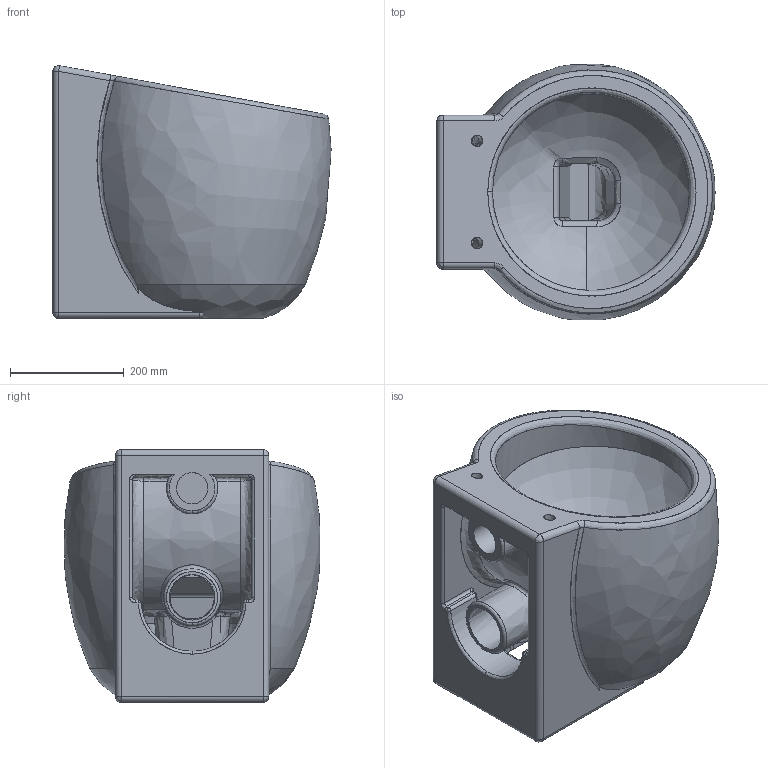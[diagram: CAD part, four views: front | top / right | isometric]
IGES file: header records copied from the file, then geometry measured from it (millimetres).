
Start section: C
Global section: file name: Planet-A-P (8401).igs; native system:  By UGS Corp.; preprocessor: XPlus GENERIC/IGES 3.0; author: Author; organization: Title; date: 20120326.121205; units: millimetre
Bounding box: 489.69 x 450.12 x 444.99 mm (x, y, z)
Surface area: 1482346.9 mm2 (no closed solid volume)
Topology: 0 solids, 0 shells, 194 faces, 1122 edges, 1110 vertices
Faces by surface type: bspline 194
